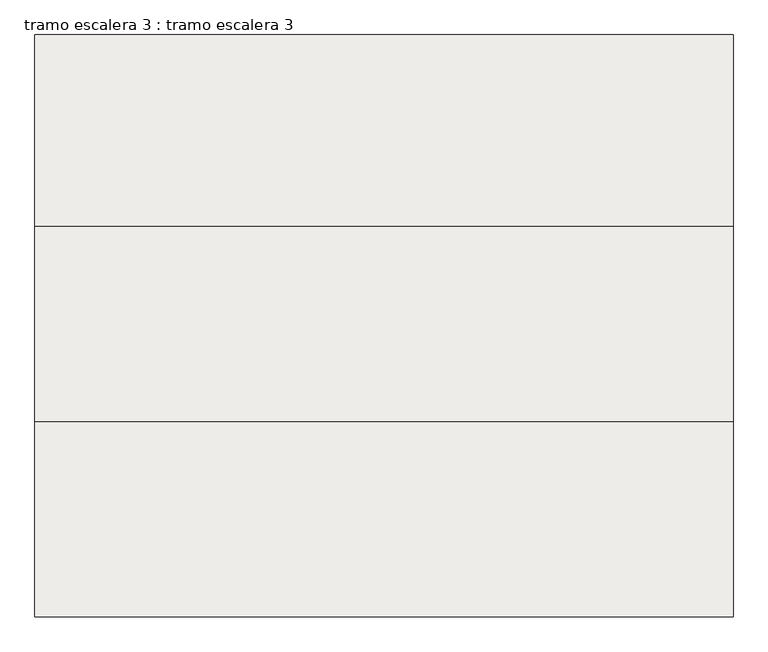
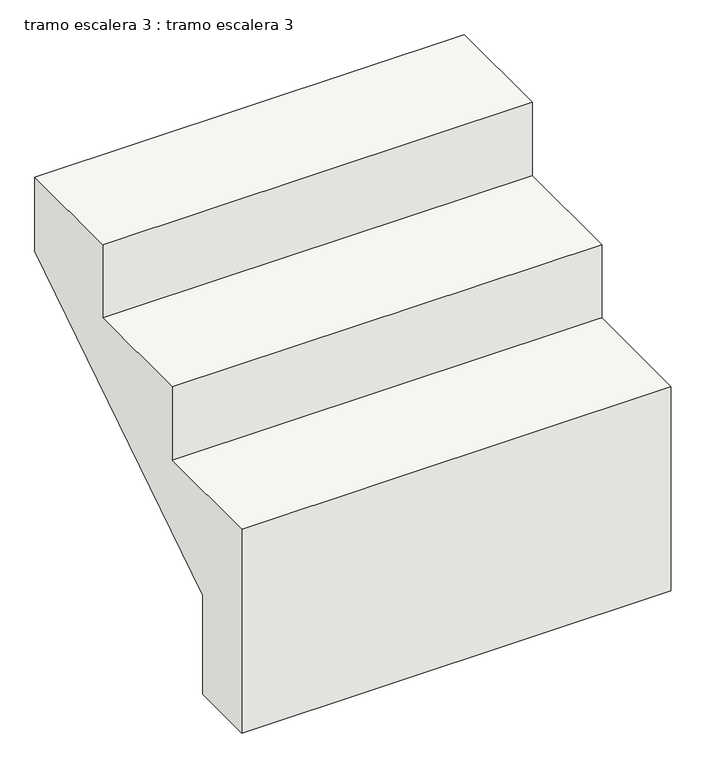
"""IFC4 building model written with IfcOpenShell, lengths in millimetres: slab geometry, tramo escalera 3 : tramo escalera 3."""

from ifc_helpers import new_model, si_unit, frame, origin, place, context, project, spatial, polyline, outline, extrude, source, transform, mapped, element, save


def tramo_escalera_3_tramo_escalera_3_9797402d(model_context):
    return source(origin(), model_context, "Body", "SweptSolid", [
        extrude(outline(polyline([(6789.1346758, 3715.0014808), (7076.1908001, 3715.0014808), (7076.1908001, 3900.0014808), (7363.2469244, 3900.0014808), (7363.2469244, 4085.0014808), (7644.1272561, 4085.0014808), (7644.1272561, 3897.3464647), (6950.0, 3450.0), (6950.0, 3200.0), (6789.1346758, 3200.0), (6789.1346758, 3715.0014808)])), frame((10390.0, 0.0, 0.0), z_axis=(1.0, 0.0, 0.0), x_axis=(0.0, 1.0, 0.0)), (0.0, 0.0, 1.0), 1025.0),
    ])


if __name__ == "__main__":
    model = new_model("IFC4")
    model_context = context("Model", 3, world=origin())
    ifc_project = project(units=[si_unit("LENGTHUNIT", "METRE", prefix="MILLI")], contexts=[model_context])
    site = spatial("IfcSite", under=ifc_project)
    building = spatial("IfcBuilding", under=site)
    placement = place(None, origin())
    tramo_escalera_3_tramo_escalera_3_shape = tramo_escalera_3_tramo_escalera_3_9797402d(model_context)
    element("IfcSlab", 1, ObjectType="tramo escalera 3 : tramo escalera 3", at=placement, inside=building, context=model_context, shape_type="MappedRepresentation", body=[
        mapped(tramo_escalera_3_tramo_escalera_3_shape, transform((0.0, 0.0, 0.0), x_axis=(1.0, 0.0, 0.0), y_axis=(0.0, 1.0, 0.0), z_axis=(0.0, 0.0, 1.0))),
    ])
    save(model, "model.ifc")
